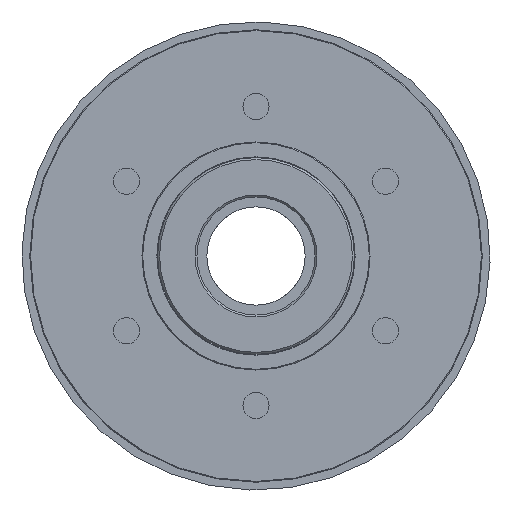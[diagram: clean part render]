
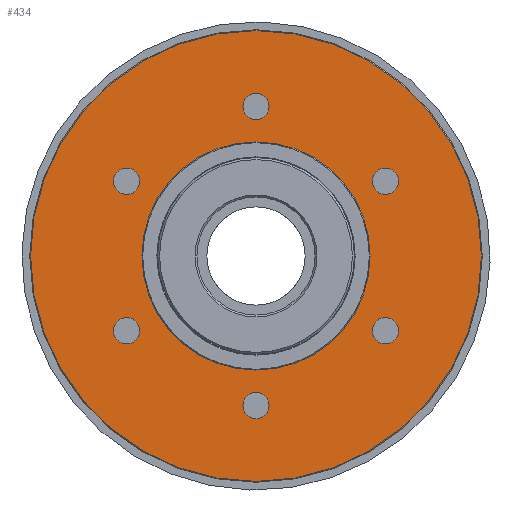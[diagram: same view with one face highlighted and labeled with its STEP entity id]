
A CAD part, left-side view. The second image highlights one B-rep face of the part: STEP entity #434.
In plain terms, the highlighted planar face has unit normal (-1, 0, 0).
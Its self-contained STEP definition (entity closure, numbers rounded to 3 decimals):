
#434 = ADVANCED_FACE( '', ( #882, #883, #884, #885, #886, #887, #888, #889 ), #890, .T. );
#882 = FACE_BOUND( '', #1530, .T. );
#883 = FACE_BOUND( '', #1531, .T. );
#884 = FACE_BOUND( '', #1532, .T. );
#885 = FACE_BOUND( '', #1533, .T. );
#886 = FACE_BOUND( '', #1534, .T. );
#887 = FACE_BOUND( '', #1535, .T. );
#888 = FACE_OUTER_BOUND( '', #1536, .T. );
#889 = FACE_BOUND( '', #1537, .T. );
#890 = PLANE( '', #1538 );
#1530 = EDGE_LOOP( '', ( #2161 ) );
#1531 = EDGE_LOOP( '', ( #2162 ) );
#1532 = EDGE_LOOP( '', ( #2163 ) );
#1533 = EDGE_LOOP( '', ( #2164 ) );
#1534 = EDGE_LOOP( '', ( #2165 ) );
#1535 = EDGE_LOOP( '', ( #2166 ) );
#1536 = EDGE_LOOP( '', ( #2167 ) );
#1537 = EDGE_LOOP( '', ( #2168 ) );
#1538 = AXIS2_PLACEMENT_3D( '', #2169, #2170, #2171 );
#2161 = ORIENTED_EDGE( '', *, *, #3154, .T. );
#2162 = ORIENTED_EDGE( '', *, *, #3155, .T. );
#2163 = ORIENTED_EDGE( '', *, *, #3156, .T. );
#2164 = ORIENTED_EDGE( '', *, *, #3157, .T. );
#2165 = ORIENTED_EDGE( '', *, *, #3158, .T. );
#2166 = ORIENTED_EDGE( '', *, *, #3159, .T. );
#2167 = ORIENTED_EDGE( '', *, *, #3160, .T. );
#2168 = ORIENTED_EDGE( '', *, *, #3125, .F. );
#2169 = CARTESIAN_POINT( '', ( 27.5, 0., 29. ) );
#2170 = DIRECTION( '', ( -1., 0., 0. ) );
#2171 = DIRECTION( '', ( 0., 0., 1. ) );
#3125 = EDGE_CURVE( '', #3504, #3504, #3505, .T. );
#3154 = EDGE_CURVE( '', #3553, #3553, #3554, .T. );
#3155 = EDGE_CURVE( '', #3555, #3555, #3556, .T. );
#3156 = EDGE_CURVE( '', #3557, #3557, #3558, .T. );
#3157 = EDGE_CURVE( '', #3559, #3559, #3560, .T. );
#3158 = EDGE_CURVE( '', #3561, #3561, #3562, .T. );
#3159 = EDGE_CURVE( '', #3563, #3563, #3564, .T. );
#3160 = EDGE_CURVE( '', #3565, #3565, #3566, .T. );
#3504 = VERTEX_POINT( '', #4051 );
#3505 = CIRCLE( '', #4052, 29. );
#3553 = VERTEX_POINT( '', #4180 );
#3554 = CIRCLE( '', #4181, 3.324 );
#3555 = VERTEX_POINT( '', #4182 );
#3556 = CIRCLE( '', #4183, 3.324 );
#3557 = VERTEX_POINT( '', #4184 );
#3558 = CIRCLE( '', #4185, 3.324 );
#3559 = VERTEX_POINT( '', #4186 );
#3560 = CIRCLE( '', #4187, 3.324 );
#3561 = VERTEX_POINT( '', #4188 );
#3562 = CIRCLE( '', #4189, 3.324 );
#3563 = VERTEX_POINT( '', #4190 );
#3564 = CIRCLE( '', #4191, 3.324 );
#3565 = VERTEX_POINT( '', #4192 );
#3566 = CIRCLE( '', #4193, 57.3 );
#4051 = CARTESIAN_POINT( '', ( 27.5, 0., 29. ) );
#4052 = AXIS2_PLACEMENT_3D( '', #5054, #5055, #5056 );
#4180 = CARTESIAN_POINT( '', ( 27.5, 35.787, 20.662 ) );
#4181 = AXIS2_PLACEMENT_3D( '', #5091, #5092, #5093 );
#4182 = CARTESIAN_POINT( '', ( 27.5, 35.787, -20.662 ) );
#4183 = AXIS2_PLACEMENT_3D( '', #5094, #5095, #5096 );
#4184 = CARTESIAN_POINT( '', ( 27.5, 0., -41.324 ) );
#4185 = AXIS2_PLACEMENT_3D( '', #5097, #5098, #5099 );
#4186 = CARTESIAN_POINT( '', ( 27.5, -35.787, -20.662 ) );
#4187 = AXIS2_PLACEMENT_3D( '', #5100, #5101, #5102 );
#4188 = CARTESIAN_POINT( '', ( 27.5, -35.787, 20.662 ) );
#4189 = AXIS2_PLACEMENT_3D( '', #5103, #5104, #5105 );
#4190 = CARTESIAN_POINT( '', ( 27.5, 0., 41.324 ) );
#4191 = AXIS2_PLACEMENT_3D( '', #5106, #5107, #5108 );
#4192 = CARTESIAN_POINT( '', ( 27.5, 0., 57.3 ) );
#4193 = AXIS2_PLACEMENT_3D( '', #5109, #5110, #5111 );
#5054 = CARTESIAN_POINT( '', ( 27.5, 0., 0. ) );
#5055 = DIRECTION( '', ( -1., 0., 0. ) );
#5056 = DIRECTION( '', ( 0., 0., 1. ) );
#5091 = CARTESIAN_POINT( '', ( 27.5, 32.909, 19. ) );
#5092 = DIRECTION( '', ( 1., 0., 0. ) );
#5093 = DIRECTION( '', ( 0., 0.866, 0.5 ) );
#5094 = CARTESIAN_POINT( '', ( 27.5, 32.909, -19. ) );
#5095 = DIRECTION( '', ( 1., 0., 0. ) );
#5096 = DIRECTION( '', ( 0., 0.866, -0.5 ) );
#5097 = CARTESIAN_POINT( '', ( 27.5, 0., -38. ) );
#5098 = DIRECTION( '', ( 1., 0., 0. ) );
#5099 = DIRECTION( '', ( 0., 0., -1. ) );
#5100 = CARTESIAN_POINT( '', ( 27.5, -32.909, -19. ) );
#5101 = DIRECTION( '', ( 1., 0., 0. ) );
#5102 = DIRECTION( '', ( 0., -0.866, -0.5 ) );
#5103 = CARTESIAN_POINT( '', ( 27.5, -32.909, 19. ) );
#5104 = DIRECTION( '', ( 1., 0., 0. ) );
#5105 = DIRECTION( '', ( 0., -0.866, 0.5 ) );
#5106 = CARTESIAN_POINT( '', ( 27.5, 0., 38. ) );
#5107 = DIRECTION( '', ( 1., 0., 0. ) );
#5108 = DIRECTION( '', ( 0., 0., 1. ) );
#5109 = CARTESIAN_POINT( '', ( 27.5, 0., 0. ) );
#5110 = DIRECTION( '', ( -1., 0., 0. ) );
#5111 = DIRECTION( '', ( 0., 0., 1. ) );
